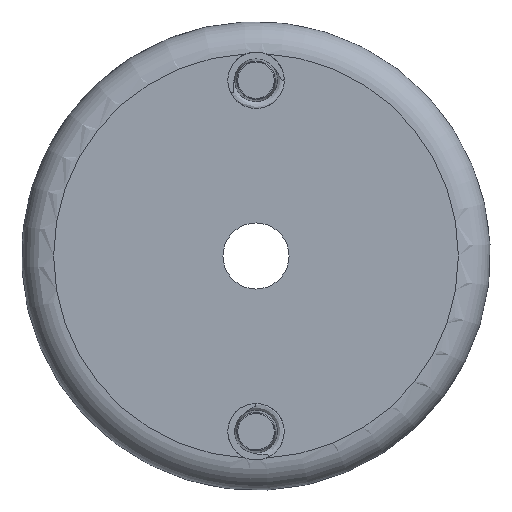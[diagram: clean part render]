
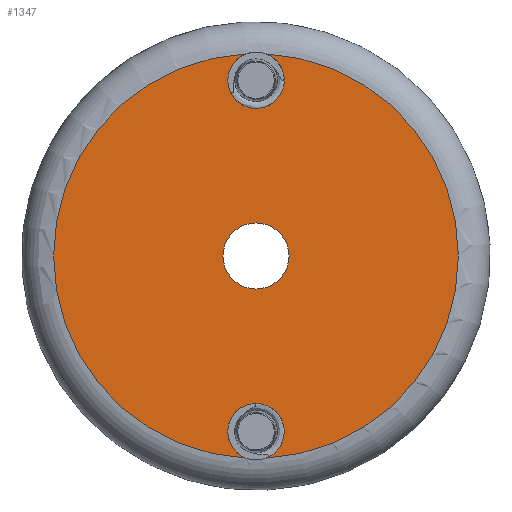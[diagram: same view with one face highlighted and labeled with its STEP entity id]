
A CAD part, front view. The second image highlights one B-rep face of the part: STEP entity #1347.
In plain terms, the highlighted planar face has unit normal (0, -1, 0).
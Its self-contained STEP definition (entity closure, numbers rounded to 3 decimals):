
#1347 = ADVANCED_FACE( '', ( #3073, #3074 ), #3075, .F. );
#3073 = FACE_OUTER_BOUND( '', #5774, .T. );
#3074 = FACE_BOUND( '', #5775, .T. );
#3075 = PLANE( '', #5776 );
#5774 = EDGE_LOOP( '', ( #10653, #10654, #10655, #10656 ) );
#5775 = EDGE_LOOP( '', ( #10657 ) );
#5776 = AXIS2_PLACEMENT_3D( '', #10658, #10659, #10660 );
#10653 = ORIENTED_EDGE( '', *, *, #15201, .T. );
#10654 = ORIENTED_EDGE( '', *, *, #15008, .T. );
#10655 = ORIENTED_EDGE( '', *, *, #15202, .F. );
#10656 = ORIENTED_EDGE( '', *, *, #15010, .T. );
#10657 = ORIENTED_EDGE( '', *, *, #15203, .F. );
#10658 = CARTESIAN_POINT( '', ( 0., 0., 0. ) );
#10659 = DIRECTION( '', ( 0., 1., 0. ) );
#10660 = DIRECTION( '', ( 1., 0., 0. ) );
#15008 = EDGE_CURVE( '', #18365, #18366, #18367, .T. );
#15010 = EDGE_CURVE( '', #18370, #18368, #18371, .T. );
#15201 = EDGE_CURVE( '', #18368, #18365, #18618, .T. );
#15202 = EDGE_CURVE( '', #18370, #18366, #18619, .T. );
#15203 = EDGE_CURVE( '', #18620, #18620, #18621, .T. );
#18365 = VERTEX_POINT( '', #23705 );
#18366 = VERTEX_POINT( '', #23706 );
#18367 = CIRCLE( '', #23707, 19. );
#18368 = VERTEX_POINT( '', #23708 );
#18370 = VERTEX_POINT( '', #23717 );
#18371 = CIRCLE( '', #23718, 19. );
#18618 = CIRCLE( '', #24087, 2.65 );
#18619 = CIRCLE( '', #24088, 2.65 );
#18620 = VERTEX_POINT( '', #24089 );
#18621 = CIRCLE( '', #24090, 3.1 );
#23705 = CARTESIAN_POINT( '', ( -0.943, 0., 18.977 ) );
#23706 = CARTESIAN_POINT( '', ( -0.943, 0., -18.977 ) );
#23707 = AXIS2_PLACEMENT_3D( '', #27294, #27295, #27296 );
#23708 = CARTESIAN_POINT( '', ( 0.943, 0., 18.977 ) );
#23717 = CARTESIAN_POINT( '', ( 0.943, 0., -18.977 ) );
#23718 = AXIS2_PLACEMENT_3D( '', #27297, #27298, #27299 );
#24087 = AXIS2_PLACEMENT_3D( '', #27483, #27484, #27485 );
#24088 = AXIS2_PLACEMENT_3D( '', #27486, #27487, #27488 );
#24089 = CARTESIAN_POINT( '', ( -3.1, 0., 0. ) );
#24090 = AXIS2_PLACEMENT_3D( '', #27489, #27490, #27491 );
#27294 = CARTESIAN_POINT( '', ( 0., 0., 0. ) );
#27295 = DIRECTION( '', ( 0., -1., 0. ) );
#27296 = DIRECTION( '', ( -0.05, 0., 0.999 ) );
#27297 = CARTESIAN_POINT( '', ( 0., 0., 0. ) );
#27298 = DIRECTION( '', ( 0., -1., 0. ) );
#27299 = DIRECTION( '', ( 0.05, 0., -0.999 ) );
#27483 = CARTESIAN_POINT( '', ( 0., 0., 16.5 ) );
#27484 = DIRECTION( '', ( 0., 1., 0. ) );
#27485 = DIRECTION( '', ( 0.356, 0., 0.935 ) );
#27486 = CARTESIAN_POINT( '', ( 0., 0., -16.5 ) );
#27487 = DIRECTION( '', ( 0., -1., 0. ) );
#27488 = DIRECTION( '', ( -1., 0., 0. ) );
#27489 = CARTESIAN_POINT( '', ( 0., 0., 0. ) );
#27490 = DIRECTION( '', ( 0., -1., 0. ) );
#27491 = DIRECTION( '', ( -1., 0., 0. ) );
